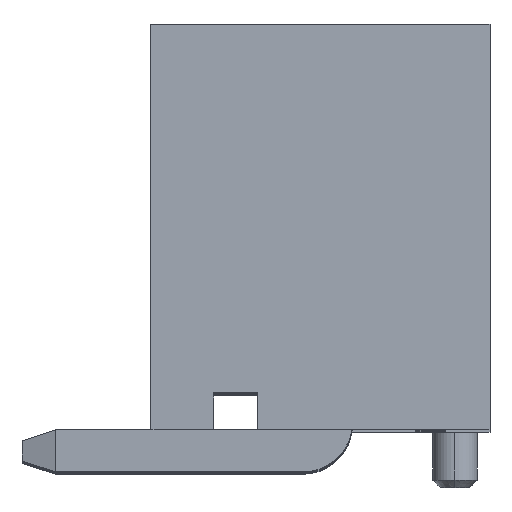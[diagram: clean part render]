
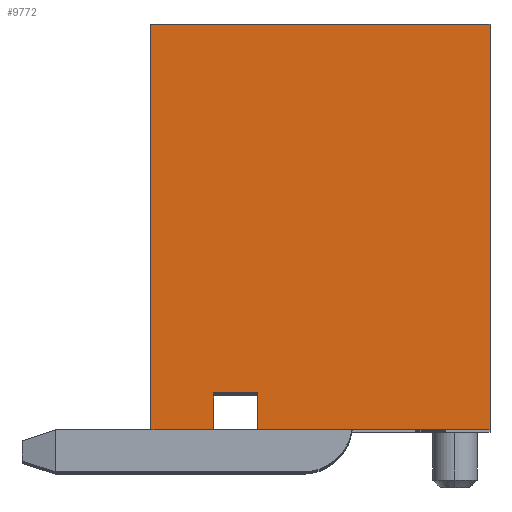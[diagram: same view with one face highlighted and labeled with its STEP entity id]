
A CAD part, top view. The second image highlights one B-rep face of the part: STEP entity #9772.
In plain terms, the highlighted planar face has unit normal (0, 0, 1).
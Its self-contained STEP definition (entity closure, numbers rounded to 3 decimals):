
#39 = ORIENTED_EDGE ( 'NONE', *, *, #8936, .F. ) ;
#111 = LINE ( 'NONE', #13757, #2849 ) ;
#407 = EDGE_CURVE ( 'NONE', #7936, #13270, #11123, .T. ) ;
#600 = VERTEX_POINT ( 'NONE', #7472 ) ;
#765 = DIRECTION ( 'NONE',  ( 1., 0., 0. ) ) ;
#1083 = VECTOR ( 'NONE', #4262, 1000. ) ;
#1345 = DIRECTION ( 'NONE',  ( -1., 0., 0. ) ) ;
#1361 = DIRECTION ( 'NONE',  ( 1., 0., 0. ) ) ;
#1691 = ORIENTED_EDGE ( 'NONE', *, *, #8278, .T. ) ;
#1710 = EDGE_LOOP ( 'NONE', ( #7735, #39, #6698, #7896, #11116, #1691, #12122, #2695 ) ) ;
#2045 = CARTESIAN_POINT ( 'NONE',  ( -3.7, 8.139, 28.66 ) ) ;
#2084 = FACE_OUTER_BOUND ( 'NONE', #1710, .T. ) ;
#2167 = VERTEX_POINT ( 'NONE', #6223 ) ;
#2695 = ORIENTED_EDGE ( 'NONE', *, *, #11270, .F. ) ;
#2849 = VECTOR ( 'NONE', #4084, 1000. ) ;
#2867 = CARTESIAN_POINT ( 'NONE',  ( -3.7, -2.861, 28.66 ) ) ;
#2923 = DIRECTION ( 'NONE',  ( 0., 0., -1. ) ) ;
#3129 = PLANE ( 'NONE',  #10191 ) ;
#3224 = CARTESIAN_POINT ( 'NONE',  ( -3.7, 8.139, 28.66 ) ) ;
#3530 = VECTOR ( 'NONE', #1361, 1000. ) ;
#3846 = CARTESIAN_POINT ( 'NONE',  ( -0.8, -2.861, 28.66 ) ) ;
#4064 = LINE ( 'NONE', #3224, #1083 ) ;
#4084 = DIRECTION ( 'NONE',  ( 0., -1., 0. ) ) ;
#4262 = DIRECTION ( 'NONE',  ( -1., 0., 0. ) ) ;
#4423 = VECTOR ( 'NONE', #12182, 1000. ) ;
#5384 = VECTOR ( 'NONE', #12684, 1000. ) ;
#5569 = CARTESIAN_POINT ( 'NONE',  ( -2., -2.861, 28.66 ) ) ;
#5773 = LINE ( 'NONE', #5569, #4423 ) ;
#6223 = CARTESIAN_POINT ( 'NONE',  ( 5.5, -2.861, 28.66 ) ) ;
#6282 = EDGE_CURVE ( 'NONE', #2167, #13011, #11694, .T. ) ;
#6320 = CARTESIAN_POINT ( 'NONE',  ( -0.8, -2.861, 28.66 ) ) ;
#6427 = CARTESIAN_POINT ( 'NONE',  ( -2., -1.861, 28.66 ) ) ;
#6698 = ORIENTED_EDGE ( 'NONE', *, *, #10428, .T. ) ;
#6717 = CARTESIAN_POINT ( 'NONE',  ( -3.7, -2.861, 28.66 ) ) ;
#6793 = DIRECTION ( 'NONE',  ( 1., 0., 0. ) ) ;
#7420 = VERTEX_POINT ( 'NONE', #2045 ) ;
#7472 = CARTESIAN_POINT ( 'NONE',  ( -0.8, -1.861, 28.66 ) ) ;
#7616 = LINE ( 'NONE', #6427, #9570 ) ;
#7735 = ORIENTED_EDGE ( 'NONE', *, *, #11913, .F. ) ;
#7896 = ORIENTED_EDGE ( 'NONE', *, *, #6282, .T. ) ;
#7936 = VERTEX_POINT ( 'NONE', #2867 ) ;
#8278 = EDGE_CURVE ( 'NONE', #7420, #7936, #111, .T. ) ;
#8646 = EDGE_CURVE ( 'NONE', #13011, #7420, #4064, .T. ) ;
#8826 = CARTESIAN_POINT ( 'NONE',  ( -3.7, -2.861, 28.66 ) ) ;
#8936 = EDGE_CURVE ( 'NONE', #9786, #600, #12829, .T. ) ;
#8958 = LINE ( 'NONE', #6717, #3530 ) ;
#9218 = DIRECTION ( 'NONE',  ( 0., 1., 0. ) ) ;
#9327 = VECTOR ( 'NONE', #9218, 1000. ) ;
#9570 = VECTOR ( 'NONE', #1345, 1000. ) ;
#9755 = CARTESIAN_POINT ( 'NONE',  ( 5.5, 8.139, 28.66 ) ) ;
#9772 = ADVANCED_FACE ( 'NONE', ( #2084 ), #3129, .F. ) ;
#9786 = VERTEX_POINT ( 'NONE', #6320 ) ;
#10191 = AXIS2_PLACEMENT_3D ( 'NONE', #12536, #2923, #765 ) ;
#10428 = EDGE_CURVE ( 'NONE', #9786, #2167, #8958, .T. ) ;
#11116 = ORIENTED_EDGE ( 'NONE', *, *, #8646, .T. ) ;
#11123 = LINE ( 'NONE', #8826, #11957 ) ;
#11203 = CARTESIAN_POINT ( 'NONE',  ( 5.5, 8.139, 28.66 ) ) ;
#11270 = EDGE_CURVE ( 'NONE', #12072, #13270, #5773, .T. ) ;
#11694 = LINE ( 'NONE', #9755, #5384 ) ;
#11913 = EDGE_CURVE ( 'NONE', #600, #12072, #7616, .T. ) ;
#11957 = VECTOR ( 'NONE', #6793, 1000. ) ;
#12000 = CARTESIAN_POINT ( 'NONE',  ( -2., -1.861, 28.66 ) ) ;
#12072 = VERTEX_POINT ( 'NONE', #12000 ) ;
#12122 = ORIENTED_EDGE ( 'NONE', *, *, #407, .T. ) ;
#12182 = DIRECTION ( 'NONE',  ( 0., -1., 0. ) ) ;
#12375 = CARTESIAN_POINT ( 'NONE',  ( -2., -2.861, 28.66 ) ) ;
#12536 = CARTESIAN_POINT ( 'NONE',  ( 0., 0., 28.66 ) ) ;
#12684 = DIRECTION ( 'NONE',  ( 0., 1., 0. ) ) ;
#12829 = LINE ( 'NONE', #3846, #9327 ) ;
#13011 = VERTEX_POINT ( 'NONE', #11203 ) ;
#13270 = VERTEX_POINT ( 'NONE', #12375 ) ;
#13757 = CARTESIAN_POINT ( 'NONE',  ( -3.7, 8.139, 28.66 ) ) ;
